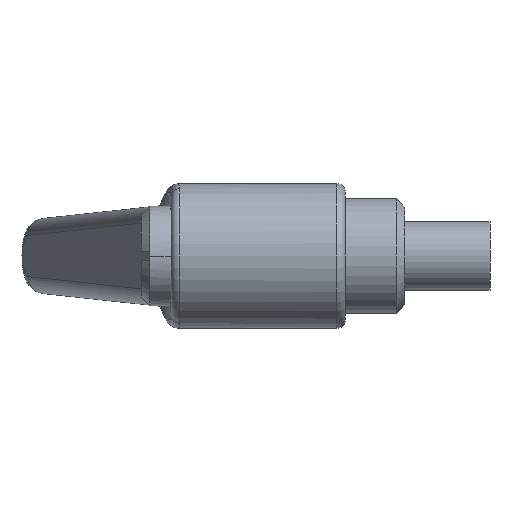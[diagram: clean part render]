
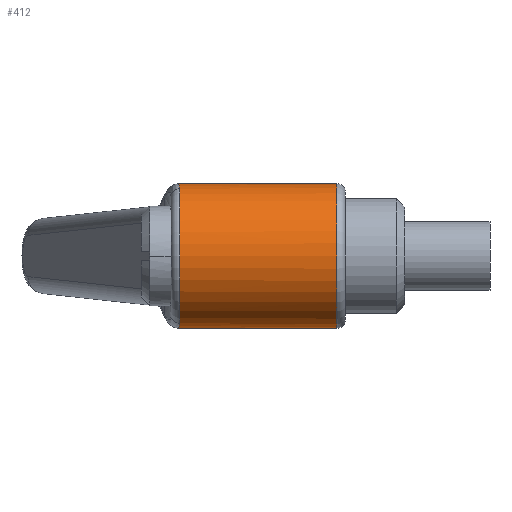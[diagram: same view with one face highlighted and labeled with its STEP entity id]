
A CAD part, left-side view. The second image highlights one B-rep face of the part: STEP entity #412.
In plain terms, the highlighted cylindrical face has radius 8.5 mm (diameter 17 mm), a partial arc.
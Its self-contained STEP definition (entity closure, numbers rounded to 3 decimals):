
#24 = CYLINDRICAL_SURFACE ( 'NONE', #311, 8.5 ) ;
#39 = CARTESIAN_POINT ( 'NONE',  ( -1.058, -0.924, -8.438 ) ) ;
#44 = B_SPLINE_CURVE_WITH_KNOTS ( 'NONE', 3,
 ( #676, #199, #2036, #1026, #39, #1200, #208, #1380 ),
 .UNSPECIFIED., .F., .F.,
 ( 4, 2, 2, 4 ),
 ( 0., 0.002, 0.002, 0.003 ),
 .UNSPECIFIED. ) ;
#55 = VECTOR ( 'NONE', #823, 1000. ) ;
#68 = CARTESIAN_POINT ( 'NONE',  ( -1.049, -0.927, 8.452 ) ) ;
#126 = LINE ( 'NONE', #791, #55 ) ;
#199 = CARTESIAN_POINT ( 'NONE',  ( -2.605, -1., -8.109 ) ) ;
#208 = CARTESIAN_POINT ( 'NONE',  ( -0.264, -0.851, -8.5 ) ) ;
#226 = EDGE_CURVE ( 'NONE', #1090, #1466, #126, .T. ) ;
#231 = CARTESIAN_POINT ( 'NONE',  ( -2.605, -1., 8.109 ) ) ;
#274 = B_SPLINE_CURVE_WITH_KNOTS ( 'NONE', 3,
 ( #1732, #1900, #68, #1223, #231, #1406 ),
 .UNSPECIFIED., .F., .F.,
 ( 4, 2, 4 ),
 ( 0.003, 0.005, 0.007 ),
 .UNSPECIFIED. ) ;
#288 = EDGE_CURVE ( 'NONE', #757, #1819, #1555, .T. ) ;
#311 = AXIS2_PLACEMENT_3D ( 'NONE', #2005, #1516, #2013 ) ;
#403 = CARTESIAN_POINT ( 'NONE',  ( 0., -1., 0. ) ) ;
#407 = AXIS2_PLACEMENT_3D ( 'NONE', #1197, #1044, #1038 ) ;
#412 = ADVANCED_FACE ( 'NONE', ( #710 ), #24, .T. ) ;
#444 = ORIENTED_EDGE ( 'NONE', *, *, #1796, .T. ) ;
#505 = EDGE_CURVE ( 'NONE', #1819, #1466, #899, .T. ) ;
#535 = CARTESIAN_POINT ( 'NONE',  ( 0., -19.5, 8.5 ) ) ;
#554 = EDGE_LOOP ( 'NONE', ( #2080, #1845, #2105, #444, #1615, #887 ) ) ;
#579 = DIRECTION ( 'NONE',  ( 0., 0., -1. ) ) ;
#602 = EDGE_CURVE ( 'NONE', #1090, #707, #274, .T. ) ;
#641 = EDGE_CURVE ( 'NONE', #707, #1193, #1614, .T. ) ;
#676 = CARTESIAN_POINT ( 'NONE',  ( -3.103, -1., -7.913 ) ) ;
#707 = VERTEX_POINT ( 'NONE', #1772 ) ;
#710 = FACE_OUTER_BOUND ( 'NONE', #554, .T. ) ;
#757 = VERTEX_POINT ( 'NONE', #1108 ) ;
#791 = CARTESIAN_POINT ( 'NONE',  ( 0., 20.5, 8.5 ) ) ;
#823 = DIRECTION ( 'NONE',  ( 0., -1., 0. ) ) ;
#887 = ORIENTED_EDGE ( 'NONE', *, *, #505, .T. ) ;
#899 = CIRCLE ( 'NONE', #407, 8.5 ) ;
#1026 = CARTESIAN_POINT ( 'NONE',  ( -1.32, -0.942, -8.401 ) ) ;
#1038 = DIRECTION ( 'NONE',  ( 0., 0., 1. ) ) ;
#1044 = DIRECTION ( 'NONE',  ( 0., 1., 0. ) ) ;
#1048 = CARTESIAN_POINT ( 'NONE',  ( 0., -0.821, 8.5 ) ) ;
#1090 = VERTEX_POINT ( 'NONE', #1048 ) ;
#1108 = CARTESIAN_POINT ( 'NONE',  ( 0., -0.821, -8.5 ) ) ;
#1156 = VECTOR ( 'NONE', #1494, 1000. ) ;
#1193 = VERTEX_POINT ( 'NONE', #1560 ) ;
#1197 = CARTESIAN_POINT ( 'NONE',  ( 0., -19.5, 0. ) ) ;
#1200 = CARTESIAN_POINT ( 'NONE',  ( -0.531, -0.878, -8.488 ) ) ;
#1223 = CARTESIAN_POINT ( 'NONE',  ( -2.088, -0.986, 8.257 ) ) ;
#1380 = CARTESIAN_POINT ( 'NONE',  ( 0., -0.821, -8.5 ) ) ;
#1406 = CARTESIAN_POINT ( 'NONE',  ( -3.103, -1., 7.913 ) ) ;
#1466 = VERTEX_POINT ( 'NONE', #535 ) ;
#1494 = DIRECTION ( 'NONE',  ( 0., -1., 0. ) ) ;
#1516 = DIRECTION ( 'NONE',  ( 0., -1., 0. ) ) ;
#1542 = CARTESIAN_POINT ( 'NONE',  ( 0., -19.5, -8.5 ) ) ;
#1555 = LINE ( 'NONE', #1994, #1156 ) ;
#1560 = CARTESIAN_POINT ( 'NONE',  ( -3.103, -1., -7.913 ) ) ;
#1590 = DIRECTION ( 'NONE',  ( 0., -1., 0. ) ) ;
#1614 = CIRCLE ( 'NONE', #1667, 8.5 ) ;
#1615 = ORIENTED_EDGE ( 'NONE', *, *, #288, .T. ) ;
#1667 = AXIS2_PLACEMENT_3D ( 'NONE', #403, #1590, #579 ) ;
#1732 = CARTESIAN_POINT ( 'NONE',  ( 0., -0.821, 8.5 ) ) ;
#1772 = CARTESIAN_POINT ( 'NONE',  ( -3.103, -1., 7.913 ) ) ;
#1796 = EDGE_CURVE ( 'NONE', #1193, #757, #44, .T. ) ;
#1819 = VERTEX_POINT ( 'NONE', #1542 ) ;
#1845 = ORIENTED_EDGE ( 'NONE', *, *, #602, .T. ) ;
#1900 = CARTESIAN_POINT ( 'NONE',  ( -0.526, -0.882, 8.5 ) ) ;
#1994 = CARTESIAN_POINT ( 'NONE',  ( 0., 20.5, -8.5 ) ) ;
#2005 = CARTESIAN_POINT ( 'NONE',  ( 0., 20.5, 0. ) ) ;
#2013 = DIRECTION ( 'NONE',  ( 0., 0., -1. ) ) ;
#2036 = CARTESIAN_POINT ( 'NONE',  ( -2.097, -0.986, -8.254 ) ) ;
#2080 = ORIENTED_EDGE ( 'NONE', *, *, #226, .F. ) ;
#2105 = ORIENTED_EDGE ( 'NONE', *, *, #641, .T. ) ;
